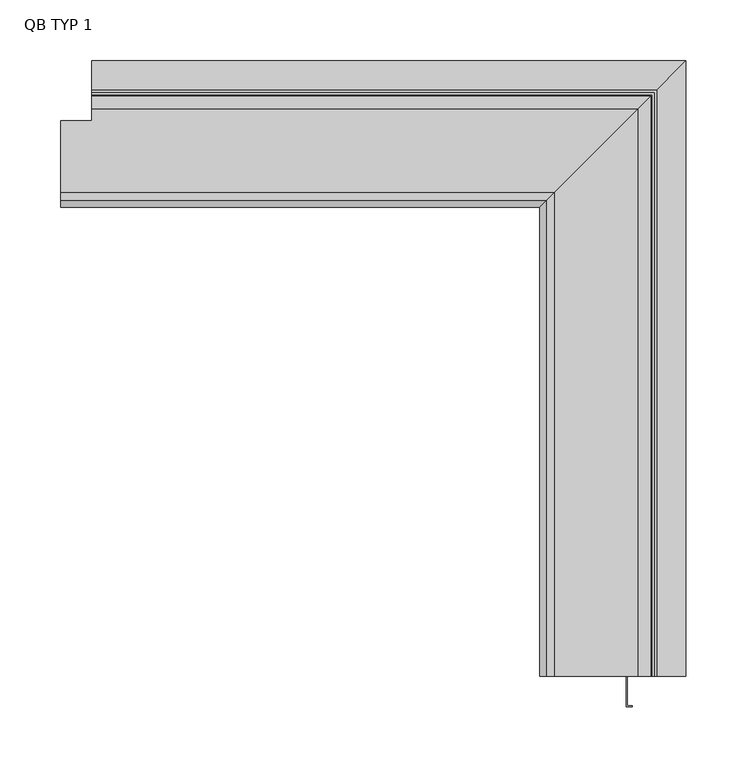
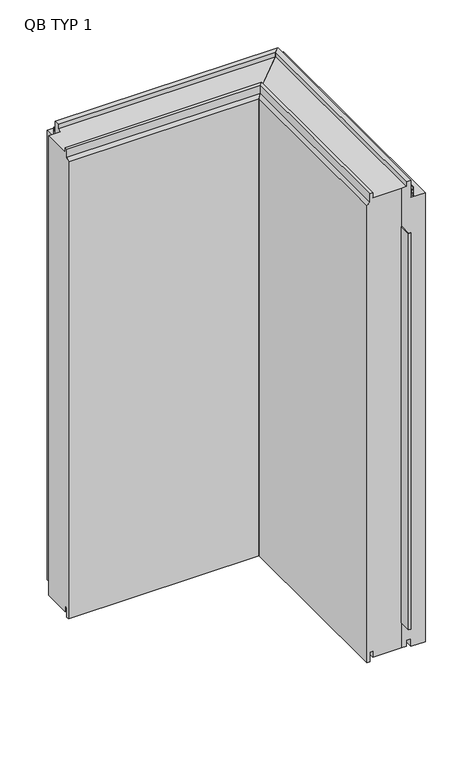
"""IFC4 building model written with IfcOpenShell, lengths in millimetres: plate geometry, TR_C_H_QBISS_Corner_Tr_A : QB TYP 1."""

from ifc_helpers import new_model, si_unit, frame, origin, place, context, project, spatial, polyline, outline, extrude, faceted_brep, source, transform, mapped, element, save


def qb_typ_1_bbeed922(model_context):
    return source(origin(), model_context, "Body", "SolidModel", [
        extrude(outline(polyline([(201.0, -529.5), (201.0, -504.3), (201.8261798, -504.3), (201.8261798, -528.7), (206.0, -528.7), (206.0, -529.5), (201.0, -529.5)])), frame((0.0, 0.0, 54.0), z_axis=(0.0, 0.0, 1.0), x_axis=(1.0, 0.0, 0.0)), (0.0, 0.0, 1.0), 862.0),
        faceted_brep([(130.0, -504.5, -8.0), (136.0, -504.5, -8.0), (136.0, -504.5, 13.0), (142.0, -504.5, 13.0), (142.0, -504.5, 0.0), (201.0, -504.5, 0.0), (201.0, -504.5, 1000.0), (142.0, -504.5, 1000.0), (142.0, -504.5, 1010.0), (136.0, -504.5, 1010.0), (136.0, -504.5, 992.0), (130.0, -504.5, 986.0), (130.0, -120.0, -8.0), (136.0, -114.0, -8.0), (136.0, -114.0, 13.0), (142.0, -108.0, 13.0), (142.0, -108.0, 0.0), (211.0, -39.0, 0.0), (211.0, -504.3, 0.0), (201.0, -504.3, 0.0), (211.0, -504.3, 13.0), (211.0, -39.0, 13.0), (221.0, -504.3, 13.0), (221.0, -29.0, 13.0), (221.0, -504.3, -4.0), (221.0, -29.0, -4.0), (250.0, 0.0, -4.0), (250.0, -504.3, -4.0), (250.0, 0.0, 973.0), (250.0, -504.3, 973.0), (221.0, -29.0, 973.0), (221.0, -504.3, 973.0), (221.0, -504.3, 1010.0), (221.0, -29.0, 1010.0), (211.0, -504.3, 1010.0), (211.0, -39.0, 1010.0), (211.0, -504.3, 1000.0), (211.0, -39.0, 1000.0), (201.0, -504.3, 1000.0), (142.0, -108.0, 1000.0), (142.0, -108.0, 1010.0), (136.0, -114.0, 1010.0), (136.0, -114.0, 992.0), (130.0, -120.0, 986.0)], [[[0, 1, 2, 3, 4, 5, 6, 7, 8, 9, 10, 11]], [[1, 0, 12, 13]], [[2, 1, 13, 14]], [[3, 2, 14, 15]], [[4, 3, 15, 16]], [[5, 4, 16, 17, 18, 19]], [[20, 18, 17, 21]], [[22, 20, 21, 23]], [[24, 22, 23, 25]], [[26, 27, 24, 25]], [[27, 26, 28, 29]], [[29, 28, 30, 31]], [[32, 31, 30, 33]], [[34, 32, 33, 35]], [[36, 34, 35, 37]], [[7, 6, 38, 36, 37, 39]], [[8, 7, 39, 40]], [[9, 8, 40, 41]], [[10, 9, 41, 42]], [[11, 10, 42, 43]], [[0, 11, 43, 12]], [[19, 38, 6, 5]], [[38, 19, 18, 20, 22, 24, 27, 29, 31, 32, 34, 36]], [[13, 12, 43, 42, 41, 40, 39, 37, 35, 33, 30, 28, 26, 25, 23, 21, 17, 16, 15, 14]]]),
        faceted_brep([(-262.4, -108.0, 0.0), (-262.4, -108.0, 13.0), (-262.4, -114.0, 13.0), (-262.4, -114.0, -8.0), (-262.4, -120.0, -8.0), (-262.4, -120.0, 986.0), (-262.4, -114.0, 992.0), (-262.4, -114.0, 1010.0), (-262.4, -108.0, 1010.0), (-262.4, -108.0, 1000.0), (-262.4, -49.0, 1000.0), (-262.4, -49.0, 0.0), (-237.3, -49.0, 0.0), (-237.3, -39.0, 0.0), (211.0, -39.0, 0.0), (142.0, -108.0, 0.0), (-237.3, -39.0, 13.0), (211.0, -39.0, 13.0), (-237.3, -29.0, 13.0), (221.0, -29.0, 13.0), (-237.3, -29.0, -4.0), (221.0, -29.0, -4.0), (-237.3, 0.0, -4.0), (250.0, 0.0, -4.0), (-237.3, 0.0, 973.0), (250.0, 0.0, 973.0), (-237.3, -29.0, 973.0), (221.0, -29.0, 973.0), (-237.3, -29.0, 1010.0), (221.0, -29.0, 1010.0), (-237.3, -39.0, 1010.0), (211.0, -39.0, 1010.0), (-237.3, -39.0, 1000.0), (211.0, -39.0, 1000.0), (142.0, -108.0, 1000.0), (-237.3, -49.0, 1000.0), (142.0, -108.0, 1010.0), (136.0, -114.0, 1010.0), (136.0, -114.0, 992.0), (130.0, -120.0, 986.0), (130.0, -120.0, -8.0), (136.0, -114.0, -8.0), (136.0, -114.0, 13.0), (142.0, -108.0, 13.0)], [[[0, 1, 2, 3, 4, 5, 6, 7, 8, 9, 10, 11]], [[0, 11, 12, 13, 14, 15]], [[13, 16, 17, 14]], [[16, 18, 19, 17]], [[18, 20, 21, 19]], [[22, 23, 21, 20]], [[23, 22, 24, 25]], [[25, 24, 26, 27]], [[26, 28, 29, 27]], [[28, 30, 31, 29]], [[30, 32, 33, 31]], [[10, 9, 34, 33, 32, 35]], [[9, 8, 36, 34]], [[8, 7, 37, 36]], [[7, 6, 38, 37]], [[6, 5, 39, 38]], [[5, 4, 40, 39]], [[4, 3, 41, 40]], [[3, 2, 42, 41]], [[2, 1, 43, 42]], [[1, 0, 15, 43]], [[35, 12, 11, 10]], [[12, 35, 32, 30, 28, 26, 24, 22, 20, 18, 16, 13]], [[15, 14, 17, 19, 21, 23, 25, 27, 29, 31, 33, 34, 36, 37, 38, 39, 40, 41, 42, 43]]]),
        faceted_brep([(226.0, -504.3, 994.5), (224.5001683, -504.3, 994.5), (224.5001683, -504.3, 987.7023593), (222.0001707, -504.3, 987.7023593), (222.0001707, -504.3, 988.5023593), (221.2001572, -504.3, 988.5023593), (221.2001572, -504.3, 980.5023028), (222.0001707, -504.3, 980.5023028), (222.0001707, -504.3, 981.3023028), (224.5001683, -504.3, 981.3023028), (224.5001683, -504.3, 974.5), (226.0, -504.3, 974.5), (-237.3, -24.0, 994.5), (-237.3, -24.0, 974.5), (-237.3, -25.4998317, 974.5), (-237.3, -25.4998317, 981.3023028), (-237.3, -27.9998293, 981.3023028), (-237.3, -27.9998293, 980.5023028), (-237.3, -28.7998428, 980.5023028), (-237.3, -28.7998428, 988.5023593), (-237.3, -27.9998293, 988.5023593), (-237.3, -27.9998293, 987.7023593), (-237.3, -25.4998317, 987.7023593), (-237.3, -25.4998317, 994.5), (226.0, -24.0, 994.5), (224.5001683, -25.4998317, 994.5), (224.5001683, -25.4998317, 987.7023593), (222.0001707, -27.9998293, 987.7023593), (222.0001707, -27.9998293, 988.5023593), (221.2001572, -28.7998428, 988.5023593), (221.2001572, -28.7998428, 980.5023028), (222.0001707, -27.9998293, 980.5023028), (222.0001707, -27.9998293, 981.3023028), (224.5001683, -25.4998317, 981.3023028), (224.5001683, -25.4998317, 974.5), (226.0, -24.0, 974.5)], [[[0, 1, 2, 3, 4, 5, 6, 7, 8, 9, 10, 11]], [[12, 13, 14, 15, 16, 17, 18, 19, 20, 21, 22, 23]], [[1, 0, 24, 12, 23, 25]], [[2, 1, 25, 26]], [[3, 2, 26, 22, 21, 27]], [[4, 3, 27, 28]], [[5, 4, 28, 20, 19, 29]], [[6, 5, 29, 30]], [[7, 6, 30, 18, 17, 31]], [[8, 7, 31, 32]], [[9, 8, 32, 16, 15, 33]], [[10, 9, 33, 34]], [[11, 10, 34, 14, 13, 35]], [[0, 11, 35, 24]], [[26, 25, 23, 22]], [[28, 27, 21, 20]], [[30, 29, 19, 18]], [[32, 31, 17, 16]], [[34, 33, 15, 14]], [[24, 35, 13, 12]]]),
    ])


if __name__ == "__main__":
    model = new_model("IFC4")
    model_context = context("Model", 3, world=origin())
    ifc_project = project(units=[si_unit("LENGTHUNIT", "METRE", prefix="MILLI")], contexts=[model_context])
    site = spatial("IfcSite", under=ifc_project)
    building = spatial("IfcBuilding", under=site)
    placement = place(None, origin())
    qb_typ_1_shape = qb_typ_1_bbeed922(model_context)
    element("IfcPlate", 1, ObjectType="TR_C_H_QBISS_Corner_Tr_A : QB TYP 1", at=placement, inside=building, context=model_context, shape_type="MappedRepresentation", body=[
        mapped(qb_typ_1_shape, transform((0.0, 0.0, 0.0), x_axis=(1.0, 0.0, 0.0), y_axis=(0.0, 1.0, 0.0), z_axis=(0.0, 0.0, 1.0))),
    ])
    save(model, "model.ifc")
